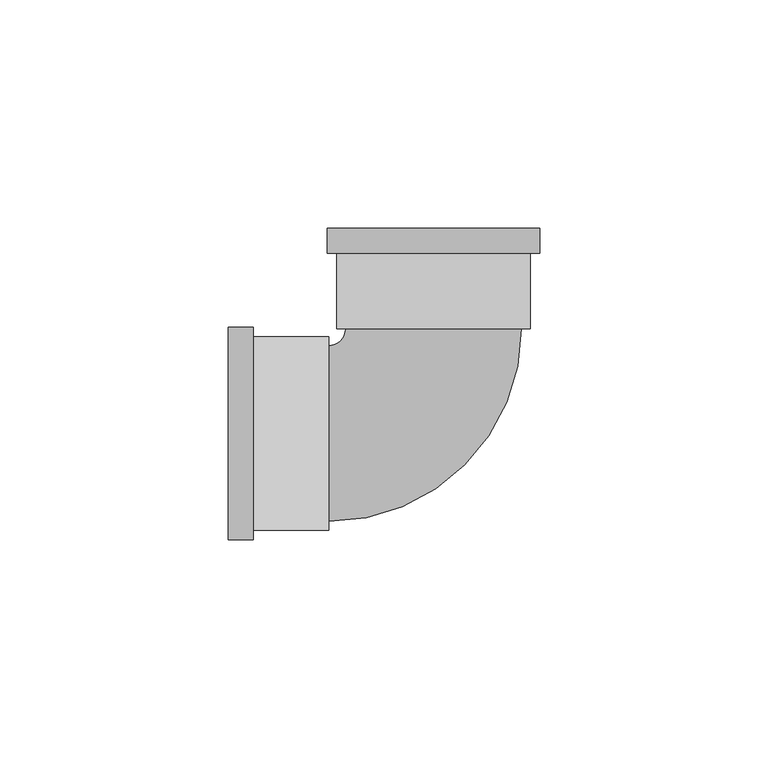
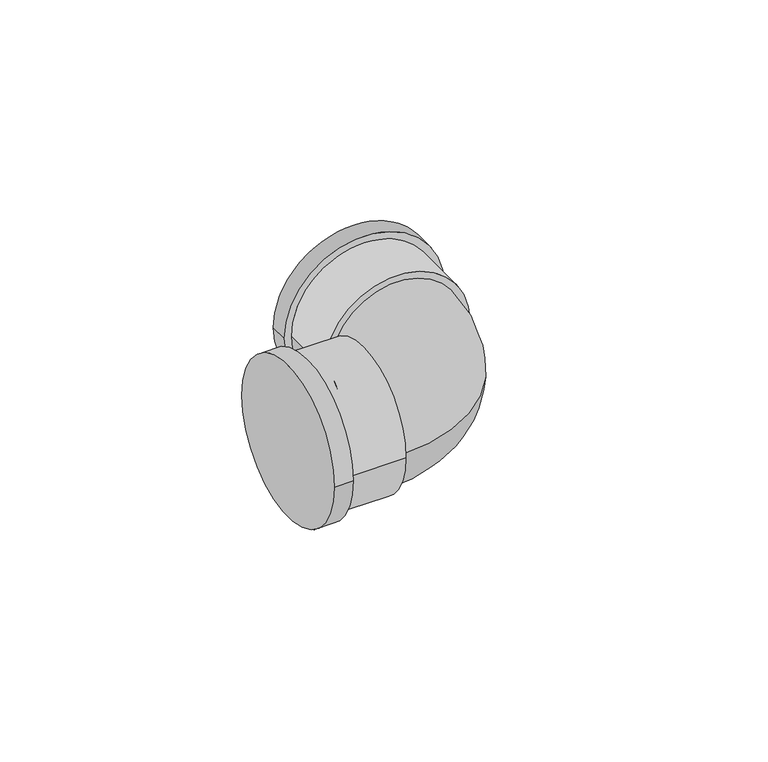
"""IFC4 building model written with IfcOpenShell, lengths in millimetres: pipe fitting geometry, Cotovelo - PVC - CW : Padrão."""

from ifc_helpers import new_model, si_unit, point, frame, origin, place, context, project, spatial, circle_curve, ellipse_curve, trimmed, source, transform, mapped, element, save
from ifc_brep_helpers import plane_surface, cylinder_surface, revolved_surface, advanced_brep


def pipe_fitting_bdfb9b50(model_context):
    return source(origin(), model_context, "Body", "AdvancedBrep", [
        advanced_brep(
        [(-45.0001957, -23.2925, 0.0), (-45.0001957, 23.2925, 0.0), (-39.5001957, -23.2925, 0.0), (-39.5001957, 23.2925, 0.0), (-39.5001957, -21.175, 0.0), (-39.5001957, 21.175, 0.0), (-23.0001957, 21.175, 0.0), (-23.0001957, -21.175, 0.0), (-23.0001957, -19.25, 0.0), (-23.0001957, 19.25, 0.0), (-19.2501957, 23.0000319, 0.0), (19.2498043, 23.0003595, 0.0), (21.1748043, 23.0003759, 0.0), (-21.1751957, 23.0000155, 0.0), (-23.292883, 44.9999975, 0.0), (23.292117, 45.000394, 0.0), (21.1746639, 39.5003759, 0.0), (-21.1753361, 39.5000155, 0.0), (-23.2928361, 39.4999975, 0.0), (23.2921639, 39.500394, 0.0)],
        [
            (0, 1, circle_curve(frame((-45.0001957, 0.0, 0.0), z_axis=(-1.0, 0.0, 0.0), x_axis=(0.0, 1.0, 0.0)), 23.2925)),
            (1, 0, circle_curve(frame((-45.0001957, 0.0, 0.0), z_axis=(-1.0, 0.0, 0.0), x_axis=(0.0, 1.0, 0.0)), 23.2925)),
            (2, 3, circle_curve(frame((-39.5001957, 0.0, 0.0), z_axis=(1.0, 0.0, 0.0), x_axis=(0.0, 1.0, 0.0)), 23.2925)),
            (3, 2, circle_curve(frame((-39.5001957, 0.0, 0.0), z_axis=(1.0, 0.0, 0.0), x_axis=(0.0, 1.0, 0.0)), 23.2925)),
            (4, 5, circle_curve(frame((-39.5001957, 0.0, 0.0), z_axis=(-1.0, 0.0, 0.0), x_axis=(0.0, -1.0, 0.0)), 21.175)),
            (5, 4, circle_curve(frame((-39.5001957, 0.0, 0.0), z_axis=(-1.0, 0.0, 0.0), x_axis=(0.0, -1.0, 0.0)), 21.175)),
            (0, 2),
            (3, 1),
            (6, 7, circle_curve(frame((-23.0001957, 0.0, 0.0), z_axis=(1.0, 0.0, 0.0), x_axis=(0.0, -1.0, 0.0)), 21.175)),
            (7, 6, circle_curve(frame((-23.0001957, 0.0, 0.0), z_axis=(1.0, 0.0, 0.0), x_axis=(0.0, -1.0, 0.0)), 21.175)),
            (8, 9, circle_curve(frame((-23.0001957, 0.0, 0.0), z_axis=(-1.0, 0.0, 0.0), x_axis=(0.0, 1.0, 0.0)), 19.25)),
            (9, 8, circle_curve(frame((-23.0001957, 0.0, 0.0), z_axis=(-1.0, 0.0, 0.0), x_axis=(0.0, 1.0, 0.0)), 19.25)),
            (6, 5),
            (4, 7),
            (10, 9, circle_curve(frame((-23.0001957, 23.0, 0.0), z_axis=(0.0, 0.0, -1.0), x_axis=(0.0, -1.0, 0.0)), 3.75)),
            (8, 11, circle_curve(frame((-23.0001957, 23.0, 0.0), z_axis=(0.0, 0.0, 1.0), x_axis=(0.0, -1.0, 0.0)), 42.25)),
            (11, 10, circle_curve(frame((-0.0001957, 23.0001957, 0.0), z_axis=(8.510053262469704e-06, -0.9999999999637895, 0.0), x_axis=(-0.9999999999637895, -8.510053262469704e-06, 0.0)), 19.25)),
            (10, 11, circle_curve(frame((-0.0001957, 23.0001957, 0.0), z_axis=(8.510053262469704e-06, -0.9999999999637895, 0.0), x_axis=(-0.9999999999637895, -8.510053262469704e-06, 0.0)), 19.25)),
            (12, 13, circle_curve(frame((-0.0001957, 23.0001957, 0.0), z_axis=(8.510053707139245e-06, -0.9999999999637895, 0.0), x_axis=(-0.9999999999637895, -8.510053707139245e-06, 0.0)), 21.175)),
            (13, 12, circle_curve(frame((-0.0001957, 23.0001957, 0.0), z_axis=(8.510053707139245e-06, -0.9999999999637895, 0.0), x_axis=(-0.9999999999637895, -8.510053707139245e-06, 0.0)), 21.175)),
            (14, 15, circle_curve(frame((-0.000383, 45.0001957, 0.0), z_axis=(-8.510053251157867e-06, 0.9999999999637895, 0.0), x_axis=(0.9999999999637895, 8.510053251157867e-06, 0.0)), 23.2925)),
            (15, 14, circle_curve(frame((-0.000383, 45.0001957, 0.0), z_axis=(-8.510053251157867e-06, 0.9999999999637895, 0.0), x_axis=(0.9999999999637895, 8.510053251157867e-06, 0.0)), 23.2925)),
            (12, 16),
            (16, 17, circle_curve(frame((-0.0003361, 39.5001957, 0.0), z_axis=(8.510053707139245e-06, -0.9999999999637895, 0.0), x_axis=(-0.9999999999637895, -8.510053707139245e-06, 0.0)), 21.175)),
            (17, 13),
            (17, 16, circle_curve(frame((-0.0003361, 39.5001957, 0.0), z_axis=(8.510053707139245e-06, -0.9999999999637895, 0.0), x_axis=(-0.9999999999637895, -8.510053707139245e-06, 0.0)), 21.175)),
            (18, 19, circle_curve(frame((-0.0003361, 39.5001957, 0.0), z_axis=(8.510053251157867e-06, -0.9999999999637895, 0.0), x_axis=(0.9999999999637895, 8.510053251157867e-06, 0.0)), 23.2925)),
            (19, 18, circle_curve(frame((-0.0003361, 39.5001957, 0.0), z_axis=(8.510053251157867e-06, -0.9999999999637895, 0.0), x_axis=(0.9999999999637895, 8.510053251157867e-06, 0.0)), 23.2925)),
            (14, 18),
            (19, 15),
        ],
        [
            plane_surface(frame((-45.0001957, 0.0, 0.0), z_axis=(-1.0, 0.0, 0.0), x_axis=(0.0, 0.0, 1.0))),
            plane_surface(frame((-39.5001957, 0.0, 0.0), z_axis=(1.0, 0.0, 0.0), x_axis=(0.0, 0.0, 1.0))),
            cylinder_surface(frame((-45.0001957, 0.0, 0.0), z_axis=(-1.0, 0.0, 0.0), x_axis=(0.0, 1.0, 0.0)), 23.2925),
            plane_surface(frame((-23.0001957, 0.0, 0.0), z_axis=(1.0, 0.0, 0.0), x_axis=(0.0, 0.0, 1.0))),
            cylinder_surface(frame((-23.0001957, 0.0, 0.0), z_axis=(1.0, 0.0, 0.0), x_axis=(0.0, -1.0, 0.0)), 21.175),
            revolved_surface(trimmed(ellipse_curve(frame((-23.0001957, 0.0, 0.0), z_axis=(-1.0, 0.0, 0.0), x_axis=(0.0, 1.0, 0.0)), 19.25, 19.25), [point((-23.0001957, -19.25, 0.0))], [point((-23.0001957, 19.25, 0.0))], True, "CARTESIAN"), (-23.0001957, 23.0, 0.0), (0.0, 0.0, 1.0)),
            revolved_surface(trimmed(ellipse_curve(frame((-23.0001957, 0.0, 0.0), z_axis=(-1.0, 0.0, 0.0), x_axis=(0.0, 1.0, 0.0)), 19.25, 19.25), [point((-23.0001957, 19.25, 0.0))], [point((-23.0001957, -19.25, 0.0))], True, "CARTESIAN"), (-23.0001957, 23.0, 0.0), (0.0, 0.0, 1.0)),
            plane_surface(frame((-0.0001957, 23.0001957, 0.0), z_axis=(8.510053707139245e-06, -0.9999999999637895, 0.0), x_axis=(0.0, 0.0, 1.0))),
            plane_surface(frame((-0.000383, 45.0001957, 0.0), z_axis=(-8.510053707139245e-06, 0.9999999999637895, 0.0), x_axis=(0.0, 0.0, 1.0))),
            cylinder_surface(frame((-0.0001957, 23.0001957, 0.0), z_axis=(8.510053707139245e-06, -0.9999999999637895, 0.0), x_axis=(-0.9999999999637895, -8.510053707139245e-06, 0.0)), 21.175),
            plane_surface(frame((-0.0003361, 39.5001957, 0.0), z_axis=(8.510053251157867e-06, -0.9999999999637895, 0.0), x_axis=(0.0, 0.0, 1.0))),
            cylinder_surface(frame((-0.000383, 45.0001957, 0.0), z_axis=(-8.510053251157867e-06, 0.9999999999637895, 0.0), x_axis=(0.9999999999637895, 8.510053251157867e-06, 0.0)), 23.2925),
        ],
        [
            (0, [[1, 2]]),
            (1, [[3, 4], [5, 6]]),
            (2, [[-1, 7, -4, 8]]),
            (2, [[-2, -8, -3, -7]]),
            (3, [[9, 10], [11, 12]]),
            (4, [[-9, 13, -5, 14]]),
            (4, [[-10, -14, -6, -13]]),
            (5, [[15, -11, 16, 17]]),
            (6, [[-15, 18, -16, -12]]),
            (7, [[19, 20], [-17, -18]]),
            (8, [[21, 22]]),
            (9, [[-19, 23, 24, 25]]),
            (9, [[-20, -25, 26, -23]]),
            (10, [[27, 28], [-24, -26]]),
            (11, [[-21, 29, -28, 30]]),
            (11, [[-22, -30, -27, -29]]),
        ],
    ),
    ])


if __name__ == "__main__":
    model = new_model("IFC4")
    model_context = context("Model", 3, world=origin())
    ifc_project = project(units=[si_unit("LENGTHUNIT", "METRE", prefix="MILLI")], contexts=[model_context])
    site = spatial("IfcSite", under=ifc_project)
    building = spatial("IfcBuilding", under=site)
    placement = place(None, origin())
    pipe_fitting_shape = pipe_fitting_bdfb9b50(model_context)
    element("IfcPipeFitting", 1, ObjectType="Cotovelo - PVC - CW : Padrão", at=placement, inside=building, context=model_context, shape_type="MappedRepresentation", body=[
        mapped(pipe_fitting_shape, transform((0.0, 0.0, 0.0), x_axis=(1.0, 0.0, 0.0), y_axis=(0.0, 1.0, 0.0), z_axis=(0.0, 0.0, 1.0))),
    ])
    save(model, "model.ifc")
